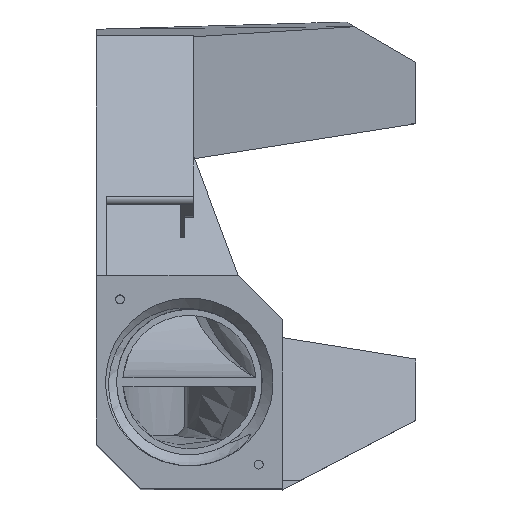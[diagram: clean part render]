
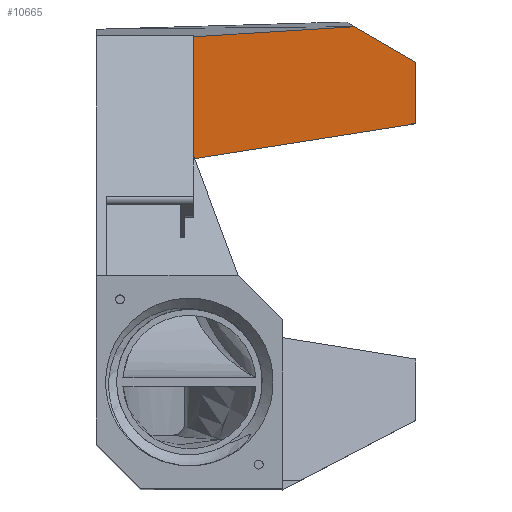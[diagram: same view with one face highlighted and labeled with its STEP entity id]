
A CAD part, top view. The second image highlights one B-rep face of the part: STEP entity #10665.
In plain terms, the highlighted planar face has unit normal (0.632, -0.14, 0.762).
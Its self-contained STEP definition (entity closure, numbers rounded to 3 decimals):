
#780=B_SPLINE_CURVE_WITH_KNOTS('',1,(#20654,#20655),.UNSPECIFIED.,.F.,.F.,
(2,2),(0.,1.),.PIECEWISE_BEZIER_KNOTS.);
#2017=ORIENTED_EDGE('',*,*,#4717,.F.);
#2018=ORIENTED_EDGE('',*,*,#4904,.F.);
#2019=ORIENTED_EDGE('',*,*,#4954,.T.);
#2020=ORIENTED_EDGE('',*,*,#5024,.F.);
#2021=ORIENTED_EDGE('',*,*,#4695,.F.);
#4695=EDGE_CURVE('',#6280,#6281,#7075,.F.);
#4717=EDGE_CURVE('',#6300,#6280,#7095,.T.);
#4904=EDGE_CURVE('',#6436,#6300,#7209,.T.);
#4954=EDGE_CURVE('',#6436,#6461,#7236,.T.);
#5024=EDGE_CURVE('',#6281,#6461,#780,.F.);
#6280=VERTEX_POINT('',#17811);
#6281=VERTEX_POINT('',#17813);
#6300=VERTEX_POINT('',#17854);
#6436=VERTEX_POINT('',#19106);
#6461=VERTEX_POINT('',#19282);
#7075=LINE('',#17812,#7971);
#7095=LINE('',#17855,#7991);
#7209=LINE('',#19107,#8105);
#7236=LINE('',#19290,#8132);
#7971=VECTOR('',#13747,1000.);
#7991=VECTOR('',#13773,1000.);
#8105=VECTOR('',#13979,1000.);
#8132=VECTOR('',#14050,1000.);
#8775=EDGE_LOOP('',(#2017,#2018,#2019,#2020,#2021));
#9429=FACE_BOUND('',#8775,.T.);
#9979=PLANE('',#12716);
#10665=ADVANCED_FACE('',(#9429),#9979,.T.);
#12716=AXIS2_PLACEMENT_3D('',#20653,#14149,#14150);
#13747=DIRECTION('',(0.,-0.984,-0.181));
#13773=DIRECTION('',(-0.775,-0.123,0.62));
#13979=DIRECTION('',(0.,-0.984,-0.181));
#14050=DIRECTION('',(-0.673,0.388,0.63));
#14149=DIRECTION('',(0.632,-0.14,0.762));
#14150=DIRECTION('',(0.769,0.,-0.639));
#17811=CARTESIAN_POINT('',(-20.,9.263,-53.498));
#17812=CARTESIAN_POINT('',(-20.,24.249,-50.747));
#17813=CARTESIAN_POINT('',(-20.,23.,-50.976));
#17854=CARTESIAN_POINT('',(5.,13.24,-73.519));
#17855=CARTESIAN_POINT('',(5.,13.24,-73.519));
#19106=CARTESIAN_POINT('',(5.,20.164,-72.247));
#19107=CARTESIAN_POINT('',(5.,20.164,-72.247));
#19282=CARTESIAN_POINT('',(-1.914,24.156,-65.775));
#19290=CARTESIAN_POINT('',(3.954,20.768,-71.268));
#20653=CARTESIAN_POINT('',(-14.099,25.119,-55.485));
#20654=CARTESIAN_POINT('',(-1.914,24.156,-65.775));
#20655=CARTESIAN_POINT('',(-20.,23.,-50.976));
